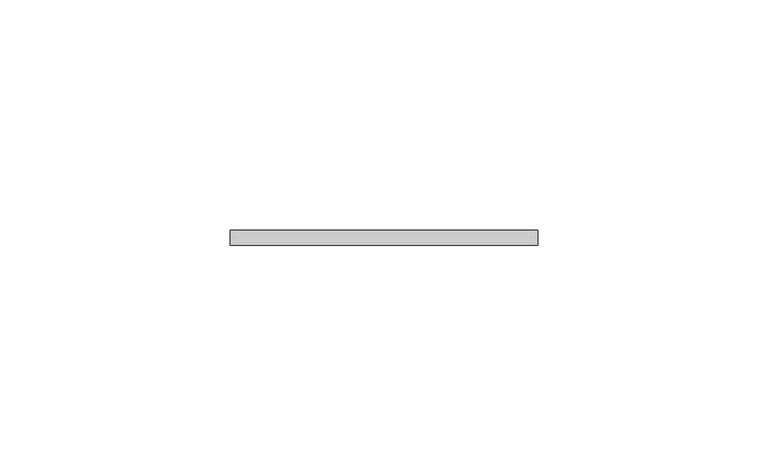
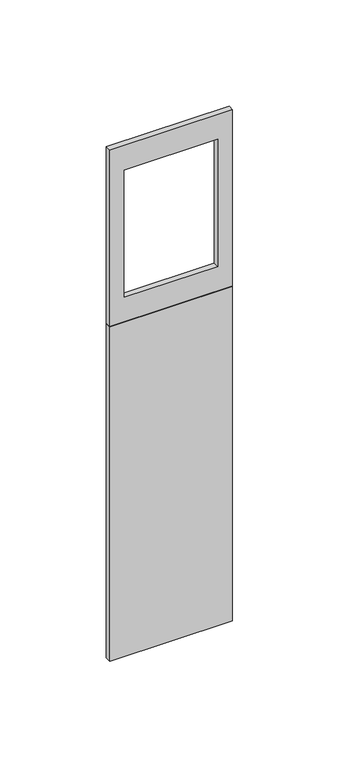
"""IFC4 building model written with IfcOpenShell, lengths in millimetres: proxy geometry, Accessory-Wiremold-Receptacle_Cover : 30TP-C."""

from ifc_helpers import new_model, si_unit, frame, origin, place, context, project, spatial, polyline, outline, extrude, source, transform, mapped, element, save


def electrical_fixtures_1117c885(model_context):
    return source(origin(), model_context, "Body", "SweptSolid", [
        extrude(outline(polyline([(33.3375, -1.5875), (-33.3375, -1.5875), (-33.3375, 1.5875), (33.3375, 1.5875), (33.3375, -1.5875)])), frame((0.0, 0.0, 25.4), z_axis=(0.0, 0.0, 1.0), x_axis=(1.0, 0.0, 0.0)), (0.0, 0.0, 1.0), 192.0875),
        extrude(outline(polyline([(319.0875, 33.3375), (319.0875, -33.3375), (217.4875, -33.3375), (217.4875, 33.3375), (319.0875, 33.3375)]), holes=[polyline([(304.8, 25.4), (231.775, 25.4), (231.775, -25.4), (304.8, -25.4), (304.8, 25.4)])]), frame((0.0, -1.5875, 0.0), z_axis=(0.0, 1.0, 0.0), x_axis=(0.0, 0.0, 1.0)), (0.0, 0.0, 1.0), 3.175),
    ])


if __name__ == "__main__":
    model = new_model("IFC4")
    model_context = context("Model", 3, world=origin())
    ifc_project = project(units=[si_unit("LENGTHUNIT", "METRE", prefix="MILLI")], contexts=[model_context])
    site = spatial("IfcSite", under=ifc_project)
    building = spatial("IfcBuilding", under=site)
    placement = place(None, origin())
    electrical_fixtures_shape = electrical_fixtures_1117c885(model_context)
    element("IfcBuildingElementProxy", 1, Name="Accessory-Wiremold-Receptacle_Cover : 30TP-C", ObjectType="Accessory-Wiremold-Receptacle_Cover : 30TP-C", at=placement, inside=building, context=model_context, shape_type="MappedRepresentation", body=[
        mapped(electrical_fixtures_shape, transform((0.0, 0.0, 0.0), x_axis=(1.0, 0.0, 0.0), y_axis=(0.0, 1.0, 0.0), z_axis=(0.0, 0.0, 1.0))),
    ])
    save(model, "model.ifc")
